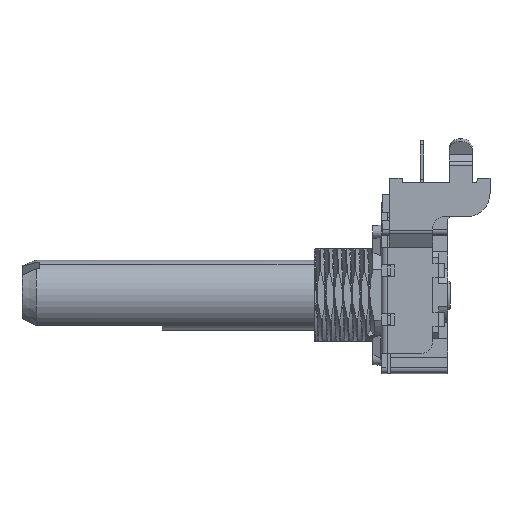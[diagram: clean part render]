
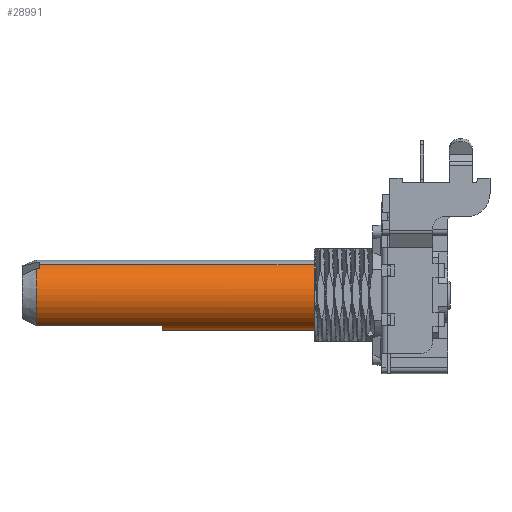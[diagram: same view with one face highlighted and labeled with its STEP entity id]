
A CAD part, left-side view. The second image highlights one B-rep face of the part: STEP entity #28991.
In plain terms, the highlighted cylindrical face has radius 3 mm (diameter 6 mm), a partial arc.
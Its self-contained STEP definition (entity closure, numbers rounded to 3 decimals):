
#45 = CIRCLE ( 'NONE', #14780, 3. ) ;
#234 = CARTESIAN_POINT ( 'NONE',  ( 0., 32.6, 0. ) ) ;
#584 = DIRECTION ( 'NONE',  ( 0., -1., 0. ) ) ;
#961 = EDGE_CURVE ( 'NONE', #6536, #16873, #23081, .T. ) ;
#3085 = DIRECTION ( 'NONE',  ( 0., 1., 0. ) ) ;
#3973 = ORIENTED_EDGE ( 'NONE', *, *, #27035, .F. ) ;
#4084 = VERTEX_POINT ( 'NONE', #6173 ) ;
#4699 = CARTESIAN_POINT ( 'NONE',  ( 0., 32.3, -3. ) ) ;
#6173 = CARTESIAN_POINT ( 'NONE',  ( 0., 2.5, 3. ) ) ;
#6266 = CYLINDRICAL_SURFACE ( 'NONE', #33068, 3. ) ;
#6275 = CIRCLE ( 'NONE', #10826, 3. ) ;
#6300 = LINE ( 'NONE', #19425, #24592 ) ;
#6536 = VERTEX_POINT ( 'NONE', #4699 ) ;
#6999 = LINE ( 'NONE', #17819, #13806 ) ;
#7865 = CIRCLE ( 'NONE', #27701, 3. ) ;
#8537 = DIRECTION ( 'NONE',  ( 0., 0., -1. ) ) ;
#9279 = VERTEX_POINT ( 'NONE', #10905 ) ;
#9301 = DIRECTION ( 'NONE',  ( 0., 1., 0. ) ) ;
#10191 = CARTESIAN_POINT ( 'NONE',  ( 0., 2.5, -3. ) ) ;
#10826 = AXIS2_PLACEMENT_3D ( 'NONE', #22440, #30603, #22966 ) ;
#10905 = CARTESIAN_POINT ( 'NONE',  ( 0.55, 32.6, -2.949 ) ) ;
#11407 = DIRECTION ( 'NONE',  ( 0., 0., -1. ) ) ;
#13111 = DIRECTION ( 'NONE',  ( 0., 1., 0. ) ) ;
#13736 = ORIENTED_EDGE ( 'NONE', *, *, #34120, .F. ) ;
#13806 = VECTOR ( 'NONE', #9301, 1000. ) ;
#13834 =( BOUNDED_CURVE ( )  B_SPLINE_CURVE ( 3, ( #16509, #19995, #33835, #16682 ),
 .UNSPECIFIED., .F., .T. ) 
 B_SPLINE_CURVE_WITH_KNOTS ( ( 4, 4 ),
 ( 4.528, 4.545 ),
 .UNSPECIFIED. ) 
 CURVE ( )  GEOMETRIC_REPRESENTATION_ITEM ( )  RATIONAL_B_SPLINE_CURVE ( ( 1., 1., 1., 1. ) ) 
 REPRESENTATION_ITEM ( '' )  );
#13972 = VERTEX_POINT ( 'NONE', #33717 ) ;
#14780 = AXIS2_PLACEMENT_3D ( 'NONE', #21796, #13111, #21625 ) ;
#15065 = CARTESIAN_POINT ( 'NONE',  ( 0.5, 32.3, -2.958 ) ) ;
#15443 = DIRECTION ( 'NONE',  ( 0., -1., 0. ) ) ;
#16509 = CARTESIAN_POINT ( 'NONE',  ( 0.55, 32.6, -2.949 ) ) ;
#16556 = FACE_OUTER_BOUND ( 'NONE', #22911, .T. ) ;
#16682 = CARTESIAN_POINT ( 'NONE',  ( 0.5, 32.3, -2.958 ) ) ;
#16873 = VERTEX_POINT ( 'NONE', #10191 ) ;
#17739 = EDGE_CURVE ( 'NONE', #21926, #6536, #7865, .T. ) ;
#17819 = CARTESIAN_POINT ( 'NONE',  ( 2.598, 21.8, 1.5 ) ) ;
#19272 = EDGE_CURVE ( 'NONE', #34704, #21384, #45, .T. ) ;
#19425 = CARTESIAN_POINT ( 'NONE',  ( 0., 32.6, 3. ) ) ;
#19995 = CARTESIAN_POINT ( 'NONE',  ( 0.533, 32.5, -2.952 ) ) ;
#20145 = ORIENTED_EDGE ( 'NONE', *, *, #961, .F. ) ;
#20172 = ORIENTED_EDGE ( 'NONE', *, *, #27476, .F. ) ;
#21219 = ORIENTED_EDGE ( 'NONE', *, *, #19272, .F. ) ;
#21384 = VERTEX_POINT ( 'NONE', #32524 ) ;
#21625 = DIRECTION ( 'NONE',  ( 0., 0., 1. ) ) ;
#21733 = DIRECTION ( 'NONE',  ( 0., -1., 0. ) ) ;
#21796 = CARTESIAN_POINT ( 'NONE',  ( 0., 21.8, 0. ) ) ;
#21926 = VERTEX_POINT ( 'NONE', #15065 ) ;
#22440 = CARTESIAN_POINT ( 'NONE',  ( 0., 32.6, 0. ) ) ;
#22911 = EDGE_LOOP ( 'NONE', ( #21219, #29457, #31883, #20145, #32336, #3973, #13736, #20172 ) ) ;
#22966 = DIRECTION ( 'NONE',  ( 0., 0., 1. ) ) ;
#23081 = LINE ( 'NONE', #33900, #30923 ) ;
#24592 = VECTOR ( 'NONE', #21733, 1000. ) ;
#24880 = CARTESIAN_POINT ( 'NONE',  ( 0., 21.8, 3. ) ) ;
#24890 = CARTESIAN_POINT ( 'NONE',  ( 0., 2.5, 0. ) ) ;
#25219 = CARTESIAN_POINT ( 'NONE',  ( 0., 32.3, 0. ) ) ;
#26845 = AXIS2_PLACEMENT_3D ( 'NONE', #24890, #3085, #27209 ) ;
#27035 = EDGE_CURVE ( 'NONE', #9279, #21926, #13834, .T. ) ;
#27209 = DIRECTION ( 'NONE',  ( 0., 0., 1. ) ) ;
#27288 = EDGE_CURVE ( 'NONE', #34704, #4084, #6300, .T. ) ;
#27476 = EDGE_CURVE ( 'NONE', #21384, #13972, #6999, .T. ) ;
#27701 = AXIS2_PLACEMENT_3D ( 'NONE', #25219, #27874, #8537 ) ;
#27874 = DIRECTION ( 'NONE',  ( 0., 1., 0. ) ) ;
#28973 = EDGE_CURVE ( 'NONE', #4084, #16873, #34193, .T. ) ;
#28991 = ADVANCED_FACE ( 'NONE', ( #16556 ), #6266, .T. ) ;
#29457 = ORIENTED_EDGE ( 'NONE', *, *, #27288, .T. ) ;
#30603 = DIRECTION ( 'NONE',  ( 0., 1., 0. ) ) ;
#30923 = VECTOR ( 'NONE', #15443, 1000. ) ;
#31883 = ORIENTED_EDGE ( 'NONE', *, *, #28973, .T. ) ;
#32336 = ORIENTED_EDGE ( 'NONE', *, *, #17739, .F. ) ;
#32524 = CARTESIAN_POINT ( 'NONE',  ( 2.598, 21.8, 1.5 ) ) ;
#33068 = AXIS2_PLACEMENT_3D ( 'NONE', #234, #584, #11407 ) ;
#33717 = CARTESIAN_POINT ( 'NONE',  ( 2.598, 32.6, 1.5 ) ) ;
#33835 = CARTESIAN_POINT ( 'NONE',  ( 0.517, 32.4, -2.955 ) ) ;
#33900 = CARTESIAN_POINT ( 'NONE',  ( 0., 32.6, -3. ) ) ;
#34120 = EDGE_CURVE ( 'NONE', #13972, #9279, #6275, .T. ) ;
#34193 = CIRCLE ( 'NONE', #26845, 3. ) ;
#34704 = VERTEX_POINT ( 'NONE', #24880 ) ;
